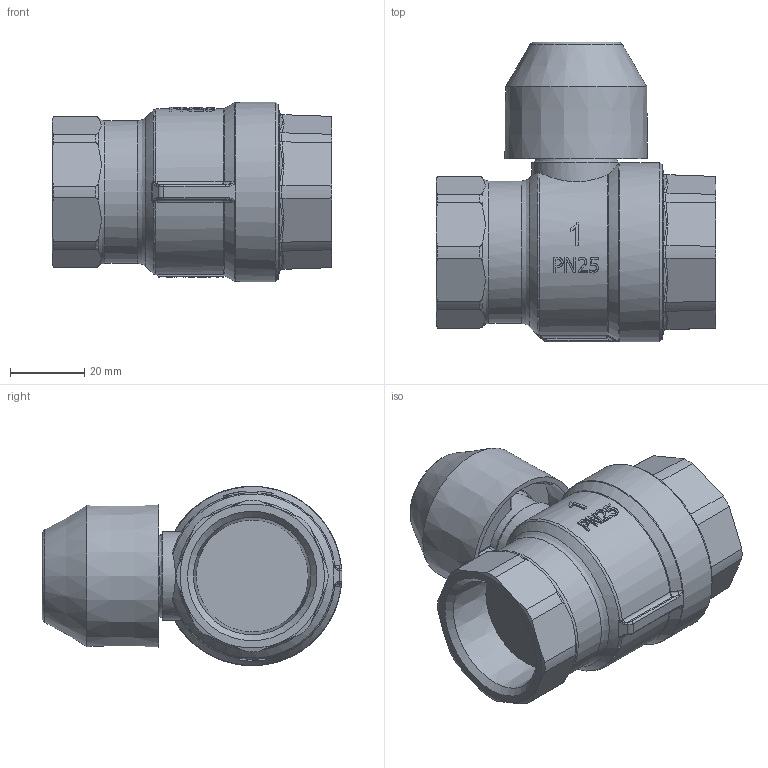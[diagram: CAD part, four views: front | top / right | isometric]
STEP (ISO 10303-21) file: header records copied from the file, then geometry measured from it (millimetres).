
FILE_DESCRIPTION((''),'2;1');
FILE_NAME('P:\Fastrack\53972_CRANE 3D\Ball Valves\Workplace\Crane Ball Valves\D171LS_1in\D171LS_1in.stp','2011-02-14T15:06:49',('btaylor'),(''),'Autodesk Inventor 2008','Autodesk Inventor 2008','');
FILE_SCHEMA(('AUTOMOTIVE_DESIGN { 1 0 10303 214 1 1 1 1 }'));
Length unit declared in the file: millimetre
Products named in the file (1): D171LS_1in
Bounding box: 75.55 x 81.05 x 48.5 mm (x, y, z)
Volume: 115882.1 mm3; surface area: 27729.7 mm2
Topology: 1 solids, 1 shells, 467 faces, 1235 edges, 787 vertices
Faces by surface type: plane 213, bspline 126, cylinder 67, cone 40, torus 21
Full cylindrical faces by diameter (mm): 11 x1, 14.2 x1, 17 x1, 18 x2, 21.5 x1, 23.5 x1, 23.96 x1, 24 x1, 38.5 x1, 48.5 x1
Entity records: 38108 total; most frequent: CARTESIAN_POINT 27439, ORIENTED_EDGE 2348, DIRECTION 1709, EDGE_CURVE 1174, VERTEX_POINT 769, AXIS2_PLACEMENT_3D 635, EDGE_LOOP 539, FACE_OUTER_BOUND 467
